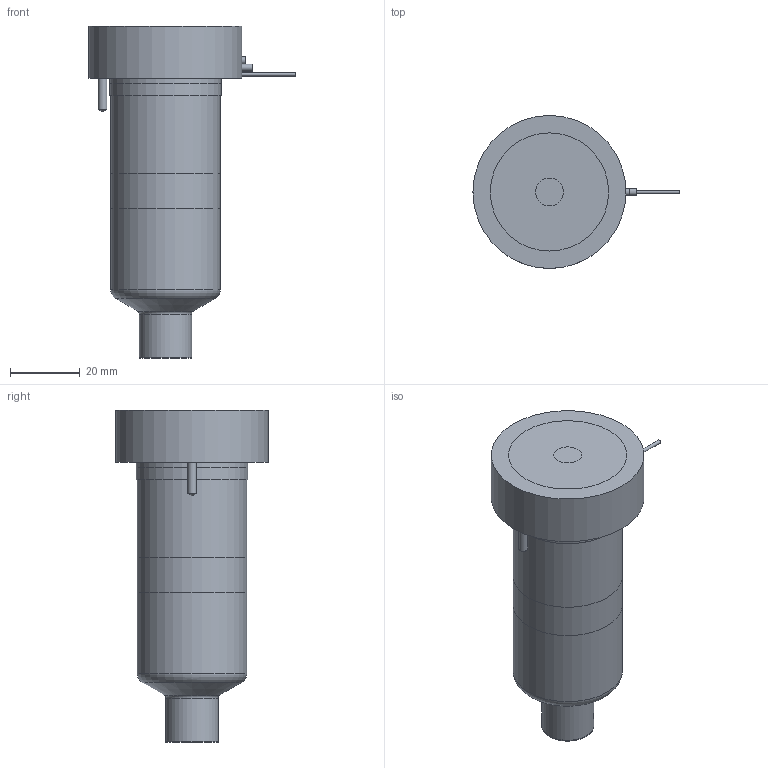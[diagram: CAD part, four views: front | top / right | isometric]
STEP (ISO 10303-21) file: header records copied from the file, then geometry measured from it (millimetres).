
FILE_DESCRIPTION(/* description */ (''),/* implementation_level */ '2;1');
FILE_NAME(/* name */ 'MXTSN-MXISN-MXOSN19075_250C_b',/* time_stamp */ '2007-01-18T09:51:23+13:00',/* author */ (''),/* organization */ (''),/* preprocessor_version */ 'ST-DEVELOPER v9',/* originating_system */ 'UGS - NX 4.0',/* authorisation */ '');
FILE_SCHEMA (('CONFIG_CONTROL_DESIGN'));
Length unit declared in the file: millimetre
Products named in the file (1): MXTSN-MXISN-MXOSN19075_250C_b
Bounding box: 59.25 x 44 x 95.46 mm (x, y, z)
Volume: 136104.2 mm3; surface area: 25659 mm2
Topology: 7 solids, 7 shells, 78 faces, 147 edges, 95 vertices
Faces by surface type: plane 35, cylinder 27, cone 8, torus 7, bspline 1
Full cylindrical faces by diameter (mm): 1 x3, 1.2 x1, 2 x2, 2.5 x2, 8 x1, 14.61 x1, 15.01 x2, 18.3 x1, 25.4 x1, 31.5 x2, 32 x2, 44 x1
Entity records: 1886 total; most frequent: CARTESIAN_POINT 376, DIRECTION 322, ORIENTED_EDGE 212, AXIS2_PLACEMENT_3D 148, EDGE_LOOP 122, EDGE_CURVE 106, VERTEX_POINT 87, ADVANCED_FACE 78
